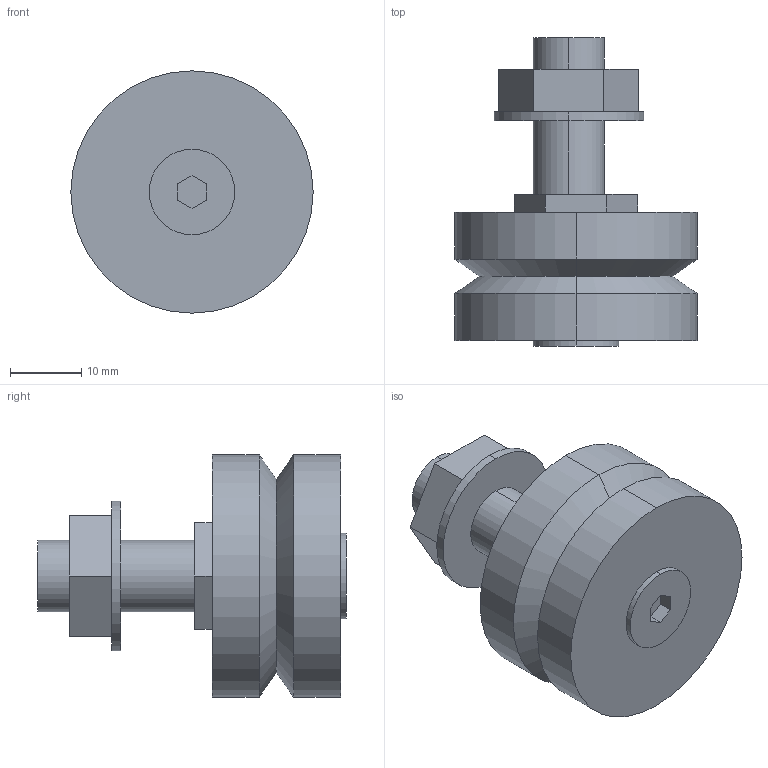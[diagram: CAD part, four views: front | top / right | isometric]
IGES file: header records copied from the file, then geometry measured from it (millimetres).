
Start section: 3D InterOp IGES (v. 2019 1.0.2), Spatial Corp. Copyright (c) 1999-2017.
Global section: file name: LJ 34 E.igs; native system: Spatial Corp.; preprocessor: 3D InterOp GENERIC/IGES 3.0; author: Noname; organization: Noname; date: 20220628.165353; units: millimetre
Bounding box: 34 x 43.3 x 34 mm (x, y, z)
Surface area: 5694.2 mm2 (no closed solid volume)
Topology: 0 solids, 0 shells, 50 faces, 228 edges, 228 vertices
Faces by surface type: extrusion 34, revolution 16
